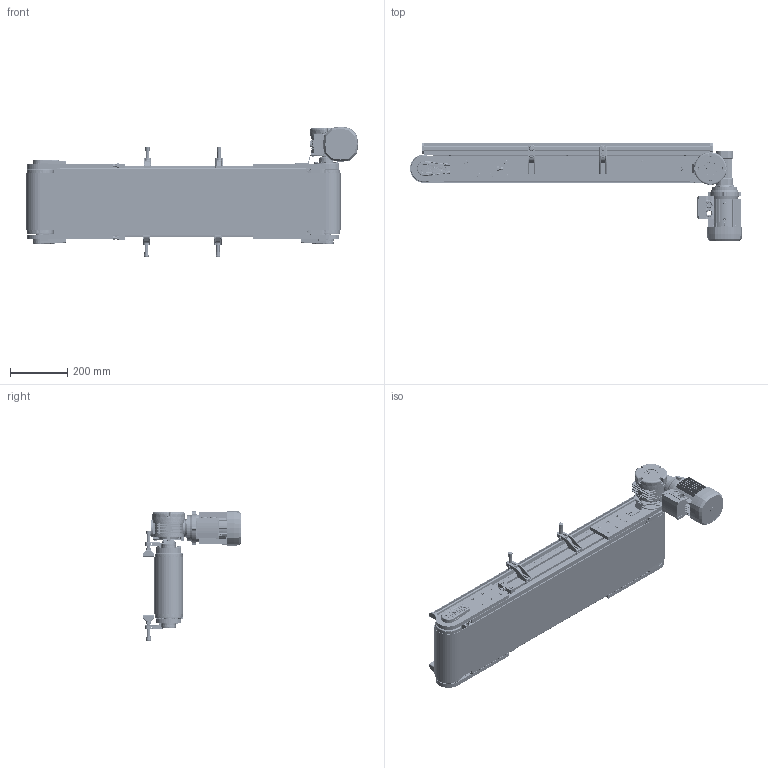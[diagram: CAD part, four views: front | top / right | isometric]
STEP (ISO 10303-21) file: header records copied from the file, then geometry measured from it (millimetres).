
FILE_DESCRIPTION (( 'STEP AP203' ), '1' );
FILE_NAME ('NASTRO_RETTILINEO_TAPPETO.step', '2026-05-04T12:19:51', ( 'Utente Windows' ), ( '' ), 'SwSTEP 2.0', 'SolidWorks 2024', '' );
FILE_SCHEMA (( 'CONFIG_CONTROL_DESIGN' ));
Length unit declared in the file: millimetre
Products named in the file (55): 084.302.000 DADI ALUSIC 13x13-1_084.302.004; BLOCCO_PERNO_95_49; LAMIERA_STANDARD; BLOCCO_RINVIO_95_STANDARD_CON TENDINASTRO E CARTER; VITI TCEI UNI 5931_M6x12 UNI 5931; 084.711.006_L1; 084.812.002; VITI TE UNI 5739_M8x12 UNI 5739; 084.711.006_PER CAVA 8 PERNO ALTO 1; 084.803.003; 084.812.003; 084.302.000 DADI ALUSIC 13x13-1_084.302.007; 084.301.000 VITI ALUSIC_084.301.003; BLOCCO_TRAINO_95_STANDARD_CON TENDINASTRO E CARTER; RONDELLE FASCIA LARGA UNI 6593_8.4x32 UNI 6593; VITI TSEI UNI 5933_M5x12 UNI 5933; 084.302.060; TELAIO_95_STANDARD_Default<A macchina>; 084.303.001; 084.802.060_Default<A macchina>; BLOCCO_TRAINO_95_STANDARD_49_DX_CON TENDINASTRO E SENZA CARTER; 084.802.067_Default<A macchina>; SPONDA_Default<A macchina>; VITI TE UNI 5739_M8x16 UNI 5739; 084.808.002_084.808.002; 30UNI7435; 084.802.034_084.802.034; 084.802.071; 084.802.019_084.802.019; DADI ESAGONALI NORMALI UNI 5588_M6 UNI 5588; 084.802.068; 084.711.010; 084.810.003; 084.712.002; TAPPETO_STANDARD; VITE_DADO_M5X12; BLOCCO_PERNO_95_RINVIO; CH05P_DX; VITI TE UNI 5739_M6x12 UNI 5739; 084.802.062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
Assembly tree (124 placements, depth 4):
  NASTRO_RETTILINEO_TAPPETO
    TAPPETO_STANDARD
    TELAIO_95_STANDARD_Default<A macchina>
    LAMIERA_STANDARD
    RULLO_95_Default<A macchina>  x2
    BLOCCO_PERNO_95_49
      084.812.002
      084.810.003
      CHIAVETTE_A 8x7x70 UNI 6604-69
      CHIAVETTE_A 8x7x20 UNI 6604-69
      RONDELLE FASCIA LARGA UNI 6593_8.4x32 UNI 6593
      VITI TE UNI 5739_M8x16 UNI 5739
      25UNI7435
      30UNI7435
    BLOCCO_TRAINO_95_STANDARD_49_DX_CON TENDINASTRO E SENZA CARTER
      084.808.003_084.808.003
      084.302.060  x2
      084.802.034_084.802.034
      084.301.000 VITI ALUSIC_084.301.003  x6
      084.802.067_Default<A macchina>
      VITI TCEI UNI 5931_M4x25 UNI 5931  x2
      BLOCCO_BRACCIO_CH05P_CH05P
        084.808.013
        084.802.062
        084.802.060_Default<A macchina>
        VITI TE UNI 5739_M8x12 UNI 5739  x4
        VITI TE UNI 5739_M6x12 UNI 5739  x4
        084.803.017
        VITI TCEI UNI 5931_M6x12 UNI 5931  x4
    BLOCCO_PERNO_95_RINVIO  x3
      084.812.003
      084.810.003
      30UNI7435
    BLOCCO_TRAINO_95_STANDARD_CON TENDINASTRO E CARTER
      084.808.002_084.808.002
      084.302.060  x2
      084.802.019_084.802.019
      084.301.000 VITI ALUSIC_084.301.003  x6
      VITI TCEI UNI 5931_M4x25 UNI 5931  x2
      084.802.071
      084.802.068
      VITI TSEI UNI 5933_M4x12 UNI 5933  x2
    BLOCCO_RINVIO_95_STANDARD_CON TENDINASTRO E CARTER  x2
      084.808.002_084.808.002
      084.803.003
      084.302.060
      084.802.019_084.802.019
      VITI TSEI UNI 5933_M4x12 UNI 5933
      084.302.000 DADI ALUSIC 13x13-1_084.302.004
      084.301.000 VITI ALUSIC_084.301.003
      084.802.071
    SPONDA_Default<A macchina>  x2
    084.711.006_PER CAVA 8 PERNO ALTO 1  x4
      084.711.006_L1
      084.711.006_L2
      084.711.007
      084.711.005
      084.711.010
      DADI ESAGONALI NORMALI UNI 5588_M6 UNI 5588
    084.712.002  x4
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Bounding box: 1159.8 x 343.5 x 454.63 mm (x, y, z)
Volume: 9440480.6 mm3; surface area: 5219929 mm2
Topology: 185 solids, 188 shells, 9221 faces, 23421 edges, 14680 vertices
Faces by surface type: plane 4027, cylinder 2677, bspline 995, cone 882, torus 536, sphere 104
Entity records: 198859 total; most frequent: CARTESIAN_POINT 70860, ORIENTED_EDGE 26306, DIRECTION 23858, EDGE_CURVE 13153, AXIS2_PLACEMENT_3D 8611, VERTEX_POINT 8340, LINE 6636, VECTOR 6636
